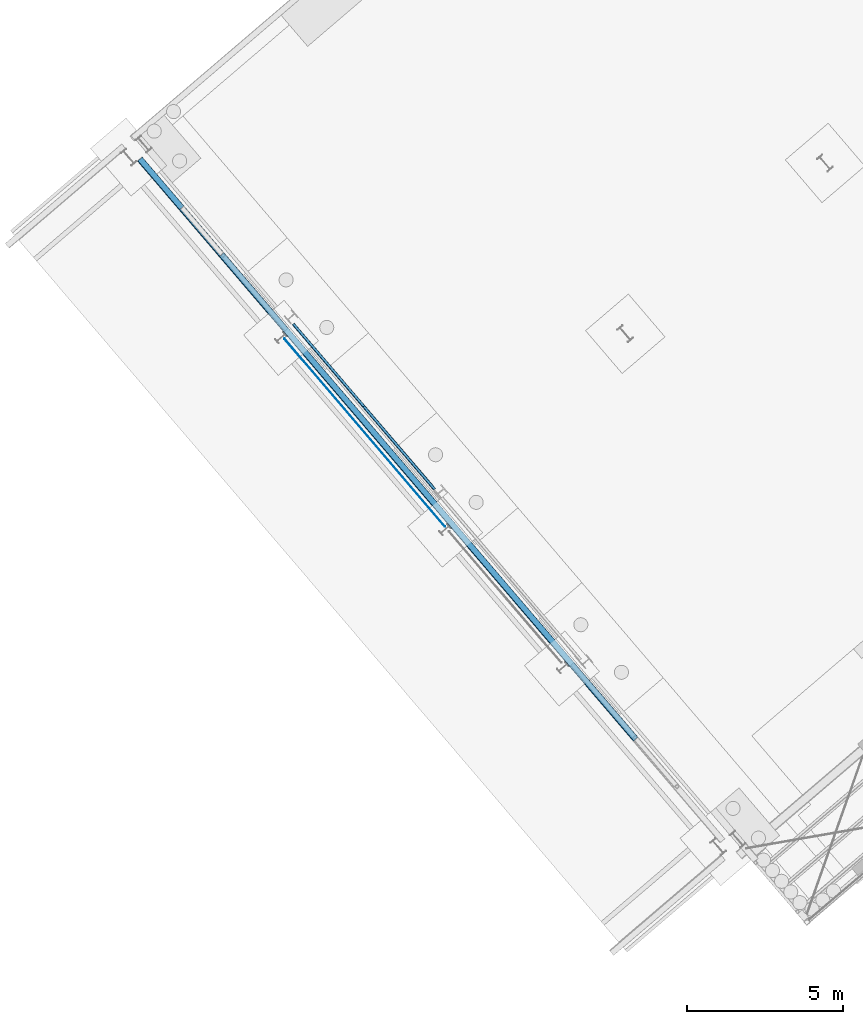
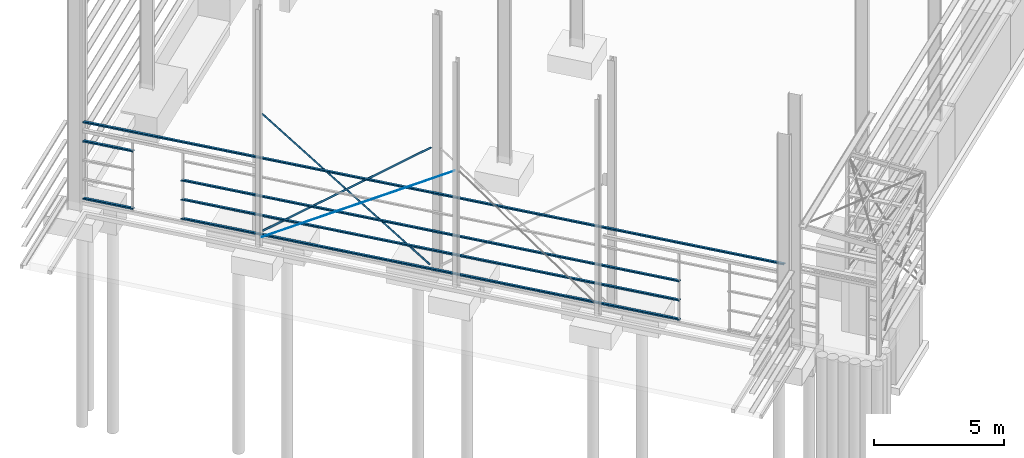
# One storey, part 14 of 41: 9 beams.
"""IFC2X3 building model written with IfcOpenShell, lengths in millimetres."""

from ifc_helpers import new_model, entity, si_unit, converted_unit, derived_unit, direction, frame, frame_2d, origin, place, context, subcontext, project, spatial, polyline, circle_curve, parameter, trimmed, segment, composite_curve, circle, outline, extrude, material, type_object, element, save


model = new_model("IFC2X3")

# Units and contexts
model_context = context("Model", 3, precision=0.01, world=origin(), true_north=direction((6.123031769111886e-17, 1.0)))
body_context = subcontext(model_context, "Body", "Model", "MODEL_VIEW")
ifc_project = project(units=[si_unit("LENGTHUNIT", "METRE", prefix="MILLI"), si_unit("AREAUNIT", "SQUARE_METRE"), si_unit("VOLUMEUNIT", "CUBIC_METRE"), converted_unit("PLANEANGLEUNIT", "DEGREE", entity("IfcRatioMeasure", 0.017453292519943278), si_unit("PLANEANGLEUNIT", "RADIAN"), dimensions=[0, 0, 0, 0, 0, 0, 0]), si_unit("MASSUNIT", "GRAM", prefix="KILO"), derived_unit("MASSDENSITYUNIT", [(si_unit("MASSUNIT", "GRAM", prefix="KILO"), 1), (si_unit("LENGTHUNIT", "METRE"), -3)]), derived_unit("MOMENTOFINERTIAUNIT", [(si_unit("LENGTHUNIT", "METRE"), 4)]), si_unit("TIMEUNIT", "SECOND"), si_unit("FREQUENCYUNIT", "HERTZ"), si_unit("THERMODYNAMICTEMPERATUREUNIT", "DEGREE_CELSIUS"), derived_unit("THERMALTRANSMITTANCEUNIT", [(si_unit("MASSUNIT", "GRAM", prefix="KILO"), 1), (si_unit("THERMODYNAMICTEMPERATUREUNIT", "KELVIN"), -1), (si_unit("TIMEUNIT", "SECOND"), -3)]), derived_unit("VOLUMETRICFLOWRATEUNIT", [(si_unit("LENGTHUNIT", "METRE"), 3), (si_unit("TIMEUNIT", "SECOND"), -1)]), derived_unit("MASSFLOWRATEUNIT", [(si_unit("MASSUNIT", "GRAM", prefix="KILO"), 1), (si_unit("TIMEUNIT", "SECOND"), -1)]), derived_unit("ROTATIONALFREQUENCYUNIT", [(si_unit("TIMEUNIT", "SECOND"), -1)]), si_unit("ELECTRICCURRENTUNIT", "AMPERE"), si_unit("ELECTRICVOLTAGEUNIT", "VOLT"), si_unit("POWERUNIT", "WATT"), si_unit("FORCEUNIT", "NEWTON", prefix="KILO"), si_unit("ILLUMINANCEUNIT", "LUX"), si_unit("LUMINOUSFLUXUNIT", "LUMEN"), si_unit("LUMINOUSINTENSITYUNIT", "CANDELA"), derived_unit("USERDEFINED", [(si_unit("MASSUNIT", "GRAM", prefix="KILO"), -1), (si_unit("LENGTHUNIT", "METRE"), -2), (si_unit("TIMEUNIT", "SECOND"), 3), (si_unit("LUMINOUSFLUXUNIT", "LUMEN"), 1)]), derived_unit("SOUNDPOWERUNIT", [(si_unit("MASSUNIT", "GRAM", prefix="KILO"), 1), (si_unit("LENGTHUNIT", "METRE"), 2), (si_unit("TIMEUNIT", "SECOND"), -3)]), derived_unit("LINEARVELOCITYUNIT", [(si_unit("LENGTHUNIT", "METRE"), 1), (si_unit("TIMEUNIT", "SECOND"), -1)]), si_unit("PRESSUREUNIT", "PASCAL"), derived_unit("USERDEFINED", [(si_unit("LENGTHUNIT", "METRE"), -2), (si_unit("MASSUNIT", "GRAM", prefix="KILO"), 1), (si_unit("TIMEUNIT", "SECOND"), -2)]), derived_unit("LINEARFORCEUNIT", [(si_unit("MASSUNIT", "GRAM", prefix="KILO"), 1), (si_unit("LENGTHUNIT", "METRE"), 1), (si_unit("TIMEUNIT", "SECOND"), -2), (si_unit("LENGTHUNIT", "METRE"), -1)]), derived_unit("PLANARFORCEUNIT", [(si_unit("MASSUNIT", "GRAM", prefix="KILO"), 1), (si_unit("LENGTHUNIT", "METRE"), 1), (si_unit("TIMEUNIT", "SECOND"), -2), (si_unit("LENGTHUNIT", "METRE"), -2)])], contexts=[model_context])

# Site, building, storey
site_placement = place(None, frame((962.4174930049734, -6014.433753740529, 0.0), z_axis=(0.0, 0.0, 1.0), x_axis=(0.7601792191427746, 0.649713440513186, 0.0)))
site = spatial("IfcSite", under=ifc_project, at=site_placement, Name="Default", CompositionType="ELEMENT")
building_placement = place(site_placement, origin())
building = spatial("IfcBuilding", under=site, at=building_placement, CompositionType="ELEMENT")
storey_placement = place(building_placement, origin())
storey = spatial("IfcBuildingStorey", under=building, at=storey_placement, Name="Datum", CompositionType="ELEMENT", Elevation=0.0)

# Beams
ifc_material = material(Name="Metal - Steel - 300 MPa")
beam_type_1 = type_object("IfcBeamType", Name="ADSK_AU_EA-Equal Angles (AS 3679_1):90x90x10EA", PredefinedType="NOTDEFINED")
beam_1_placement = place(storey_placement, frame((154451.93099063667, -4139.362534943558, 5623.784762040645), z_axis=(0.0006233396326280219, -0.6256094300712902, 0.7801361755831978), x_axis=(0.0007773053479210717, -0.7801357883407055, -0.6256097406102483)))
element("IfcBeam", 1, at=beam_1_placement, inside=storey, type_object=beam_type_1, material=ifc_material, Name="ADSK_AU_EA-Equal Angles (AS 3679_1):90x90x10EA", ObjectType="ADSK_AU_EA-Equal Angles (AS 3679_1):90x90x10EA", context=body_context, shape_type="SweptSolid", body=[
    extrude(outline(composite_curve([segment(polyline([(-55.77777777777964, -34.222222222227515), (34.22222222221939, -34.22222222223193)]), True, "CONTINUOUS"), segment(polyline([(34.22222222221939, -34.22222222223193), (34.22222222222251, 55.77777777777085)]), True, "CONTINUOUS"), segment(polyline([(34.22222222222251, 55.77777777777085), (29.22222222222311, 55.777777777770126)]), True, "CONTINUOUS"), segment(trimmed(circle_curve(frame_2d((29.22222222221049, 50.77777777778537), x_axis=(0.0, 1.0)), 4.999999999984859), [parameter(0.0)], [parameter(90.00000000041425)], True, "PARAMETER"), True, "CONTINUOUS"), segment(polyline([(24.222222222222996, 50.777777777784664), (24.222222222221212, -16.222222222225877)]), True, "CONTINUOUS"), segment(trimmed(circle_curve(frame_2d((16.222222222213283, -16.222222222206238), x_axis=(1.0, 0.0)), 8.0000000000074), [parameter(270.000000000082)], [parameter(0.0)], True, "PARAMETER"), False, "CONTINUOUS"), segment(polyline([(16.22222222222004, -24.22222222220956), (-50.77777777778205, -24.22222222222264)]), True, "CONTINUOUS"), segment(trimmed(circle_curve(frame_2d((-50.777777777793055, -29.222222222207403), x_axis=(0.0, 1.0)), 4.999999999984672), [parameter(0.0)], [parameter(90.00000000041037)], True, "PARAMETER"), True, "CONTINUOUS"), segment(polyline([(-55.77777777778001, -29.222222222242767), (-55.77777777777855, -34.222222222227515)]), True, "CONTINUOUS")], self_intersect=False)), frame((0.0, 8.522222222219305, -55.777777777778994), z_axis=(1.0, 0.0, 0.0), x_axis=(0.0, 0.0, -1.0)), (0.0, 0.0, 1.0), 8800.0),
])
beam_2_placement = place(storey_placement, frame((154451.66020471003, -10988.71752360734, 5648.177946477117), z_axis=(0.0, 0.6262631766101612, 0.7796117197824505), x_axis=(0.0, 0.7796117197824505, -0.6262631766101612)))
element("IfcBeam", 2, at=beam_2_placement, inside=storey, type_object=beam_type_1, material=ifc_material, Name="ADSK_AU_EA-Equal Angles (AS 3679_1):90x90x10EA", ObjectType="ADSK_AU_EA-Equal Angles (AS 3679_1):90x90x10EA", context=body_context, shape_type="SweptSolid", body=[
    extrude(outline(composite_curve([segment(polyline([(29.222222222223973, -55.777777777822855), (34.22222222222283, -55.77777777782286)]), True, "CONTINUOUS"), segment(polyline([(34.22222222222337, -55.777777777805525), (34.22222222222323, 34.22222222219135)]), True, "CONTINUOUS"), segment(polyline([(34.22222222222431, 34.22222222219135), (-55.77777777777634, 34.22222222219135)]), True, "CONTINUOUS"), segment(polyline([(-55.77777777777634, 34.22222222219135), (-55.777777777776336, 29.222222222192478)]), True, "CONTINUOUS"), segment(trimmed(circle_curve(frame_2d((-50.77777777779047, 29.22222222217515), x_axis=(-1.0, 0.0)), 4.9999999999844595), [parameter(0.0)], [parameter(90.00000000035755)], True, "PARAMETER"), True, "CONTINUOUS"), segment(polyline([(-50.77777777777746, 24.22222222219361), (16.222222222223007, 24.22222222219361)]), True, "CONTINUOUS"), segment(trimmed(circle_curve(frame_2d((16.2222222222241, 16.22222222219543), x_axis=(0.0, 1.0)), 7.999999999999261), [parameter(269.99999999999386)], [parameter(0.0)], True, "PARAMETER"), False, "CONTINUOUS"), segment(polyline([(24.222222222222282, 16.222222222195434), (24.22222222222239, -50.77777777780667)]), True, "CONTINUOUS"), segment(trimmed(circle_curve(frame_2d((29.222222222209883, -50.77777777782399), x_axis=(-1.0, 0.0)), 4.999999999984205), [parameter(0.0)], [parameter(90.00000000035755)], True, "PARAMETER"), True, "CONTINUOUS")], self_intersect=False)), frame((2.633183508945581, -8.522222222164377, -55.777777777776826), z_axis=(1.0, 0.0, 0.0), x_axis=(0.0, 0.0, -1.0)), (0.0, 0.0, 1.0), 8837.366816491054),
])
beam_type_2 = type_object("IfcBeamType", Name="ADSK_UK_Light Gauge-Zeds-Purlin:Metsec-202Z14", PredefinedType="NOTDEFINED")
beam_3_placement = place(storey_placement, frame((154066.46020470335, -25607.428082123, 3700.0), z_axis=(0.0, 0.0, 1.0), x_axis=(0.0, 1.0, 0.0)))
element("IfcBeam", 3, at=beam_3_placement, inside=storey, type_object=beam_type_2, material=ifc_material, Name="ADSK_UK_Light Gauge-Zeds-Purlin:Metsec-202Z14", ObjectType="ADSK_UK_Light Gauge-Zeds-Purlin:Metsec-202Z14", context=body_context, shape_type="SweptSolid", body=[
    extrude(outline(composite_curve([segment(polyline([(3.6000000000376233, -101.20000000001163), (58.0, -101.20000000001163)]), True, "CONTINUOUS"), segment(trimmed(circle_curve(frame_2d((58.0, -98.40000000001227), x_axis=(0.0, -1.0)), 2.800000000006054), [parameter(0.0)], [parameter(89.99999999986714)], True, "PARAMETER"), True, "CONTINUOUS"), segment(polyline([(60.80000000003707, -98.40000000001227), (60.79999999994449, -80.2000000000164)]), True, "CONTINUOUS"), segment(polyline([(60.80000000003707, -80.2000000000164), (59.39999999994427, -80.2000000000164)]), True, "CONTINUOUS"), segment(polyline([(59.400000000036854, -80.1999999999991), (59.39999999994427, -98.40000000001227)]), True, "CONTINUOUS"), segment(trimmed(circle_curve(frame_2d((58.0, -98.40000000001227), x_axis=(1.0, 0.0)), 1.3999999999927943), [parameter(269.9999999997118)], [parameter(0.0)], True, "PARAMETER"), False, "CONTINUOUS"), segment(polyline([(58.0, -99.80000000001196), (3.599999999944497, -99.80000000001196)]), True, "CONTINUOUS"), segment(trimmed(circle_curve(frame_2d((3.599999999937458, -98.40000000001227), x_axis=(0.0, -1.0)), 1.3999999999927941), [parameter(269.9999999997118)], [parameter(0.0)], True, "PARAMETER"), False, "CONTINUOUS"), segment(polyline([(2.200000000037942, -98.39999999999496), (2.199999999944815, 98.0)]), True, "CONTINUOUS"), segment(trimmed(circle_curve(frame_2d((-0.6000000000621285, 98.0), x_axis=(1.0, 0.0)), 2.800000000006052), [parameter(0.0)], [parameter(89.99999999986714)], True, "PARAMETER"), True, "CONTINUOUS"), segment(polyline([(-0.599999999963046, 100.79999999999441), (-60.0, 100.79999999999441)]), True, "CONTINUOUS"), segment(trimmed(circle_curve(frame_2d((-60.0, 98.0), x_axis=(0.0, 1.0)), 2.8000000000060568), [parameter(0.0)], [parameter(89.99999999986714)], True, "PARAMETER"), True, "CONTINUOUS"), segment(polyline([(-62.79999999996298, 98.0), (-62.80000000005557, 81.79999999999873)]), True, "CONTINUOUS"), segment(polyline([(-62.79999999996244, 81.79999999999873), (-61.40000000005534, 81.79999999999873)]), True, "CONTINUOUS"), segment(polyline([(-61.39999999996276, 81.79999999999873), (-61.40000000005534, 98.0)]), True, "CONTINUOUS"), segment(trimmed(circle_curve(frame_2d((-60.0, 98.0), x_axis=(-1.0, 0.0)), 1.399999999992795), [parameter(269.9999999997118)], [parameter(0.0)], True, "PARAMETER"), False, "CONTINUOUS"), segment(polyline([(-60.0, 99.39999999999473), (-0.6000000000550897, 99.39999999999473)]), True, "CONTINUOUS"), segment(trimmed(circle_curve(frame_2d((-0.6000000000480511, 98.0), x_axis=(0.0, 1.0)), 1.3999999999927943), [parameter(269.9999999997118)], [parameter(0.0)], True, "PARAMETER"), False, "CONTINUOUS"), segment(polyline([(0.8000000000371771, 98.0), (0.7999999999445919, -98.40000000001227)]), True, "CONTINUOUS"), segment(trimmed(circle_curve(frame_2d((3.599999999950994, -98.40000000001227), x_axis=(-1.0, 0.0)), 2.800000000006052), [parameter(0.0)], [parameter(89.99999999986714)], True, "PARAMETER"), True, "CONTINUOUS")], self_intersect=False)), frame((43.0, -100.79999999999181, 0.6999999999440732), z_axis=(1.0, 0.0, 0.0), x_axis=(0.0, 0.0, -1.0)), (0.0, 0.0, 1.0), 28668.999999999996),
])
beam_4_placement = place(storey_placement, frame((154066.46020470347, 1172.5719178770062, 100.0), z_axis=(0.0, 0.0, 1.0), x_axis=(0.0, 1.0, 0.0)))
element("IfcBeam", 4, at=beam_4_placement, inside=storey, type_object=beam_type_2, material=ifc_material, Name="ADSK_UK_Light Gauge-Zeds-Purlin:Metsec-202Z14", ObjectType="ADSK_UK_Light Gauge-Zeds-Purlin:Metsec-202Z14", context=body_context, shape_type="SweptSolid", body=[
    extrude(outline(composite_curve([segment(polyline([(3.6000000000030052, -101.19999999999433), (58.0, -101.19999999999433)]), True, "CONTINUOUS"), segment(trimmed(circle_curve(frame_2d((58.0, -98.39999999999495), x_axis=(0.0, -1.0)), 2.8000000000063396), [parameter(0.0)], [parameter(89.99999999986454)], True, "PARAMETER"), True, "CONTINUOUS"), segment(polyline([(60.800000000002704, -98.40000000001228), (60.799999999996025, -80.19999999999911)]), True, "CONTINUOUS"), segment(polyline([(60.80000000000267, -80.19999999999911), (59.39999999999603, -80.19999999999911)]), True, "CONTINUOUS"), segment(polyline([(59.40000000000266, -80.19999999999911), (59.399999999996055, -98.39999999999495)]), True, "CONTINUOUS"), segment(trimmed(circle_curve(frame_2d((58.0, -98.39999999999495), x_axis=(1.0, 0.0)), 1.3999999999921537), [parameter(269.9999999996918)], [parameter(0.0)], True, "PARAMETER"), False, "CONTINUOUS"), segment(polyline([(58.0, -99.79999999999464), (3.5999999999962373, -99.79999999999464)]), True, "CONTINUOUS"), segment(trimmed(circle_curve(frame_2d((3.5999999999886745, -98.39999999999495), x_axis=(0.0, -1.0)), 1.3999999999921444), [parameter(269.99999999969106)], [parameter(0.0)], True, "PARAMETER"), False, "CONTINUOUS"), segment(polyline([(2.200000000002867, -98.39999999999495), (2.199999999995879, 98.0)]), True, "CONTINUOUS"), segment(trimmed(circle_curve(frame_2d((-0.6000000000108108, 98.0), x_axis=(1.0, 0.0)), 2.8000000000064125), [parameter(0.0)], [parameter(89.99999999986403)], True, "PARAMETER"), True, "CONTINUOUS"), segment(polyline([(-0.5999999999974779, 100.80000000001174), (-60.0, 100.80000000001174)]), True, "CONTINUOUS"), segment(trimmed(circle_curve(frame_2d((-60.0, 98.0), x_axis=(0.0, 1.0)), 2.8000000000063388), [parameter(0.0)], [parameter(89.99999999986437)], True, "PARAMETER"), True, "CONTINUOUS"), segment(polyline([(-62.799999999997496, 98.0), (-62.8000000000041, 81.80000000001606)]), True, "CONTINUOUS"), segment(polyline([(-62.79999999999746, 81.80000000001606), (-61.40000000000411, 81.80000000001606)]), True, "CONTINUOUS"), segment(polyline([(-61.399999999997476, 81.79999999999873), (-61.40000000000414, 98.0)]), True, "CONTINUOUS"), segment(trimmed(circle_curve(frame_2d((-60.0, 98.0), x_axis=(-1.0, 0.0)), 1.3999999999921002), [parameter(269.99999999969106)], [parameter(0.0)], True, "PARAMETER"), False, "CONTINUOUS"), segment(polyline([(-60.0, 99.40000000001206), (-0.600000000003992, 99.40000000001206)]), True, "CONTINUOUS"), segment(trimmed(circle_curve(frame_2d((-0.5999999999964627, 98.0), x_axis=(0.0, 1.0)), 1.399999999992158), [parameter(269.9999999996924)], [parameter(0.0)], True, "PARAMETER"), False, "CONTINUOUS"), segment(polyline([(0.8000000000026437, 98.0), (0.7999999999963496, -98.39999999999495)]), True, "CONTINUOUS"), segment(trimmed(circle_curve(frame_2d((3.6000000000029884, -98.39999999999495), x_axis=(-1.0, 0.0)), 2.800000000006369), [parameter(0.0)], [parameter(89.99999999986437)], True, "PARAMETER"), True, "CONTINUOUS")], self_intersect=False)), frame((-121.80547755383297, -100.80000000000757, 0.6999999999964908), z_axis=(1.0, 0.0, 0.0), x_axis=(0.0, 0.0, -1.0)), (0.0, 0.0, 1.0), 2053.8054775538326),
])
beam_5_placement = place(storey_placement, frame((154066.46020470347, 1172.5719178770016, 2800.0), z_axis=(0.0, 0.0, 1.0), x_axis=(0.0, 1.0, 0.0)))
element("IfcBeam", 5, at=beam_5_placement, inside=storey, type_object=beam_type_2, material=ifc_material, Name="ADSK_UK_Light Gauge-Zeds-Purlin:Metsec-202Z14", ObjectType="ADSK_UK_Light Gauge-Zeds-Purlin:Metsec-202Z14", context=body_context, shape_type="SweptSolid", body=[
    extrude(outline(composite_curve([segment(polyline([(3.600000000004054, -101.19999999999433), (58.0, -101.19999999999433)]), True, "CONTINUOUS"), segment(trimmed(circle_curve(frame_2d((58.0, -98.39999999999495), x_axis=(0.0, -1.0)), 2.800000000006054), [parameter(0.0)], [parameter(89.99999999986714)], True, "PARAMETER"), True, "CONTINUOUS"), segment(polyline([(60.8000000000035, -98.40000000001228), (60.799999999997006, -80.19999999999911)]), True, "CONTINUOUS"), segment(polyline([(60.8000000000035, -80.19999999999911), (59.39999999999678, -80.19999999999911)]), True, "CONTINUOUS"), segment(polyline([(59.40000000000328, -80.19999999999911), (59.39999999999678, -98.39999999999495)]), True, "CONTINUOUS"), segment(trimmed(circle_curve(frame_2d((58.0, -98.39999999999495), x_axis=(1.0, 0.0)), 1.3999999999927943), [parameter(269.9999999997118)], [parameter(0.0)], True, "PARAMETER"), False, "CONTINUOUS"), segment(polyline([(58.0, -99.79999999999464), (3.599999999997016, -99.79999999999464)]), True, "CONTINUOUS"), segment(trimmed(circle_curve(frame_2d((3.599999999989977, -98.39999999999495), x_axis=(0.0, -1.0)), 1.3999999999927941), [parameter(269.9999999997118)], [parameter(0.0)], True, "PARAMETER"), False, "CONTINUOUS"), segment(polyline([(2.2000000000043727, -98.39999999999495), (2.1999999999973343, 98.0)]), True, "CONTINUOUS"), segment(trimmed(circle_curve(frame_2d((-0.6000000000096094, 98.0), x_axis=(1.0, 0.0)), 2.800000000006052), [parameter(0.0)], [parameter(89.99999999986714)], True, "PARAMETER"), True, "CONTINUOUS"), segment(polyline([(-0.5999999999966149, 100.80000000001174), (-60.0, 100.80000000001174)]), True, "CONTINUOUS"), segment(trimmed(circle_curve(frame_2d((-60.0, 98.0), x_axis=(0.0, 1.0)), 2.8000000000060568), [parameter(0.0)], [parameter(89.99999999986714)], True, "PARAMETER"), True, "CONTINUOUS"), segment(polyline([(-62.79999999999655, 98.0), (-62.80000000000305, 81.80000000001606)]), True, "CONTINUOUS"), segment(polyline([(-62.79999999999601, 81.80000000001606), (-61.40000000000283, 81.80000000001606)]), True, "CONTINUOUS"), segment(polyline([(-61.39999999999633, 81.79999999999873), (-61.40000000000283, 98.0)]), True, "CONTINUOUS"), segment(trimmed(circle_curve(frame_2d((-60.0, 98.0), x_axis=(-1.0, 0.0)), 1.399999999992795), [parameter(269.9999999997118)], [parameter(0.0)], True, "PARAMETER"), False, "CONTINUOUS"), segment(polyline([(-60.0, 99.40000000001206), (-0.6000000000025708, 99.40000000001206)]), True, "CONTINUOUS"), segment(trimmed(circle_curve(frame_2d((-0.5999999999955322, 98.0), x_axis=(0.0, 1.0)), 1.3999999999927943), [parameter(269.9999999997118)], [parameter(0.0)], True, "PARAMETER"), False, "CONTINUOUS"), segment(polyline([(0.8000000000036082, 98.0), (0.7999999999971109, -98.39999999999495)]), True, "CONTINUOUS"), segment(trimmed(circle_curve(frame_2d((3.600000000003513, -98.39999999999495), x_axis=(-1.0, 0.0)), 2.800000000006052), [parameter(0.0)], [parameter(89.99999999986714)], True, "PARAMETER"), True, "CONTINUOUS")], self_intersect=False)), frame((-121.80547755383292, -100.80000000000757, 0.6999999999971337), z_axis=(1.0, 0.0, 0.0), x_axis=(0.0, 0.0, -1.0)), (0.0, 0.0, 1.0), 2053.8054775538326),
])
beam_6_placement = place(storey_placement, frame((154066.46020470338, -21182.428082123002, 1000.0), z_axis=(0.0, 0.0, 1.0), x_axis=(0.0, 1.0, 0.0)))
element("IfcBeam", 6, at=beam_6_placement, inside=storey, type_object=beam_type_2, material=ifc_material, Name="ADSK_UK_Light Gauge-Zeds-Purlin:Metsec-202Z14", ObjectType="ADSK_UK_Light Gauge-Zeds-Purlin:Metsec-202Z14", context=body_context, shape_type="SweptSolid", body=[
    extrude(outline(composite_curve([segment(polyline([(3.60000000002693, -101.19999999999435), (58.0, -101.19999999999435)]), True, "CONTINUOUS"), segment(trimmed(circle_curve(frame_2d((58.0, -98.39999999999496), x_axis=(0.0, -1.0)), 2.800000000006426), [parameter(0.0)], [parameter(89.99999999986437)], True, "PARAMETER"), True, "CONTINUOUS"), segment(polyline([(60.800000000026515, -98.39999999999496), (60.7999999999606, -80.19999999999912)]), True, "CONTINUOUS"), segment(polyline([(60.800000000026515, -80.19999999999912), (59.39999999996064, -80.19999999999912)]), True, "CONTINUOUS"), segment(polyline([(59.400000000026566, -80.19999999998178), (59.39999999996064, -98.39999999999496)]), True, "CONTINUOUS"), segment(trimmed(circle_curve(frame_2d((58.0, -98.39999999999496), x_axis=(1.0, 0.0)), 1.399999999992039), [parameter(269.9999999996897)], [parameter(0.0)], True, "PARAMETER"), False, "CONTINUOUS"), segment(polyline([(58.0, -99.79999999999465), (3.5999999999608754, -99.79999999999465)]), True, "CONTINUOUS"), segment(trimmed(circle_curve(frame_2d((3.59999999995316, -98.39999999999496), x_axis=(0.0, -1.0)), 1.399999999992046), [parameter(269.9999999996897)], [parameter(0.0)], True, "PARAMETER"), False, "CONTINUOUS"), segment(polyline([(2.2000000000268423, -98.39999999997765), (2.1999999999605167, 98.0)]), True, "CONTINUOUS"), segment(trimmed(circle_curve(frame_2d((-0.6000000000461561, 98.0), x_axis=(1.0, 0.0)), 2.8000000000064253), [parameter(0.0)], [parameter(89.99999999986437)], True, "PARAMETER"), True, "CONTINUOUS"), segment(polyline([(-0.5999999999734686, 100.80000000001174), (-60.0, 100.80000000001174)]), True, "CONTINUOUS"), segment(trimmed(circle_curve(frame_2d((-60.0, 98.0), x_axis=(0.0, 1.0)), 2.8000000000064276), [parameter(0.0)], [parameter(89.99999999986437)], True, "PARAMETER"), True, "CONTINUOUS"), segment(polyline([(-62.799999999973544, 98.0), (-62.80000000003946, 81.80000000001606)]), True, "CONTINUOUS"), segment(polyline([(-62.799999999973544, 81.80000000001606), (-61.400000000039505, 81.80000000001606)]), True, "CONTINUOUS"), segment(polyline([(-61.39999999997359, 81.80000000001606), (-61.400000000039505, 98.0)]), True, "CONTINUOUS"), segment(trimmed(circle_curve(frame_2d((-60.0, 98.0), x_axis=(-1.0, 0.0)), 1.3999999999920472), [parameter(269.9999999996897)], [parameter(0.0)], True, "PARAMETER"), False, "CONTINUOUS"), segment(polyline([(-60.0, 99.40000000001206), (-0.6000000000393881, 99.40000000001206)]), True, "CONTINUOUS"), segment(trimmed(circle_curve(frame_2d((-0.6000000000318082, 98.0), x_axis=(0.0, 1.0)), 1.399999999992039), [parameter(269.9999999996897)], [parameter(0.0)], True, "PARAMETER"), False, "CONTINUOUS"), segment(polyline([(0.8000000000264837, 98.0), (0.7999999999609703, -98.39999999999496)]), True, "CONTINUOUS"), segment(trimmed(circle_curve(frame_2d((3.5999999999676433, -98.39999999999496), x_axis=(-1.0, 0.0)), 2.800000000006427), [parameter(0.0)], [parameter(89.99999999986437)], True, "PARAMETER"), True, "CONTINUOUS")], self_intersect=False)), frame((-109.0, -100.80000000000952, 0.6999999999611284), z_axis=(1.0, 0.0, 0.0), x_axis=(0.0, 0.0, -1.0)), (0.0, 0.0, 1.0), 20380.000000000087),
])
beam_7_placement = place(storey_placement, frame((154066.46020470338, -21187.428082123, 1900.0), z_axis=(0.0, 0.0, 1.0), x_axis=(0.0, 1.0, 0.0)))
element("IfcBeam", 7, at=beam_7_placement, inside=storey, type_object=beam_type_2, material=ifc_material, Name="ADSK_UK_Light Gauge-Zeds-Purlin:Metsec-202Z14", ObjectType="ADSK_UK_Light Gauge-Zeds-Purlin:Metsec-202Z14", context=body_context, shape_type="SweptSolid", body=[
    extrude(outline(composite_curve([segment(polyline([(3.600000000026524, -101.19999999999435), (58.0, -101.19999999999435)]), True, "CONTINUOUS"), segment(trimmed(circle_curve(frame_2d((58.0, -98.39999999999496), x_axis=(0.0, -1.0)), 2.8000000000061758), [parameter(0.0)], [parameter(89.99999999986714)], True, "PARAMETER"), True, "CONTINUOUS"), segment(polyline([(60.800000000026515, -98.39999999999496), (60.79999999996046, -80.19999999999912)]), True, "CONTINUOUS"), segment(polyline([(60.800000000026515, -80.19999999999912), (59.39999999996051, -80.19999999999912)]), True, "CONTINUOUS"), segment(polyline([(59.400000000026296, -80.19999999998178), (59.39999999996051, -98.39999999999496)]), True, "CONTINUOUS"), segment(trimmed(circle_curve(frame_2d((58.0, -98.39999999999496), x_axis=(1.0, 0.0)), 1.3999999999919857), [parameter(269.9999999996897)], [parameter(0.0)], True, "PARAMETER"), False, "CONTINUOUS"), segment(polyline([(58.0, -99.79999999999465), (3.599999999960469, -99.79999999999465)]), True, "CONTINUOUS"), segment(trimmed(circle_curve(frame_2d((3.599999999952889, -98.39999999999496), x_axis=(0.0, -1.0)), 1.3999999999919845), [parameter(269.9999999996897)], [parameter(0.0)], True, "PARAMETER"), False, "CONTINUOUS"), segment(polyline([(2.200000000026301, -98.39999999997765), (2.1999999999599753, 98.0)]), True, "CONTINUOUS"), segment(trimmed(circle_curve(frame_2d((-0.6000000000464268, 98.0), x_axis=(1.0, 0.0)), 2.8000000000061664), [parameter(0.0)], [parameter(89.99999999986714)], True, "PARAMETER"), True, "CONTINUOUS"), segment(polyline([(-0.5999999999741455, 100.80000000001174), (-60.0, 100.80000000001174)]), True, "CONTINUOUS"), segment(trimmed(circle_curve(frame_2d((-60.0, 98.0), x_axis=(0.0, 1.0)), 2.800000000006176), [parameter(0.0)], [parameter(89.99999999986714)], True, "PARAMETER"), True, "CONTINUOUS"), segment(polyline([(-62.799999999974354, 98.0), (-62.800000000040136, 81.80000000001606)]), True, "CONTINUOUS"), segment(polyline([(-62.799999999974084, 81.80000000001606), (-61.40000000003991, 81.80000000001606)]), True, "CONTINUOUS"), segment(polyline([(-61.39999999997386, 81.80000000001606), (-61.40000000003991, 98.0)]), True, "CONTINUOUS"), segment(trimmed(circle_curve(frame_2d((-60.0, 98.0), x_axis=(-1.0, 0.0)), 1.3999999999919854), [parameter(269.9999999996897)], [parameter(0.0)], True, "PARAMETER"), False, "CONTINUOUS"), segment(polyline([(-60.0, 99.40000000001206), (-0.6000000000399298, 99.40000000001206)]), True, "CONTINUOUS"), segment(trimmed(circle_curve(frame_2d((-0.6000000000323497, 98.0), x_axis=(0.0, 1.0)), 1.399999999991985), [parameter(269.9999999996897)], [parameter(0.0)], True, "PARAMETER"), False, "CONTINUOUS"), segment(polyline([(0.8000000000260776, 98.0), (0.7999999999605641, -98.39999999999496)]), True, "CONTINUOUS"), segment(trimmed(circle_curve(frame_2d((3.599999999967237, -98.39999999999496), x_axis=(-1.0, 0.0)), 2.8000000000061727), [parameter(0.0)], [parameter(89.99999999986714)], True, "PARAMETER"), True, "CONTINUOUS")], self_intersect=False)), frame((-104.0, -100.80000000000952, 0.6999999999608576), z_axis=(1.0, 0.0, 0.0), x_axis=(0.0, 0.0, -1.0)), (0.0, 0.0, 1.0), 20380.000000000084),
])
beam_8_placement = place(storey_placement, frame((154066.46020470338, -21187.428082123, 100.0), z_axis=(0.0, 0.0, 1.0), x_axis=(0.0, 1.0, 0.0)))
element("IfcBeam", 8, at=beam_8_placement, inside=storey, type_object=beam_type_2, material=ifc_material, Name="ADSK_UK_Light Gauge-Zeds-Purlin:Metsec-202Z14", ObjectType="ADSK_UK_Light Gauge-Zeds-Purlin:Metsec-202Z14", context=body_context, shape_type="SweptSolid", body=[
    extrude(outline(composite_curve([segment(polyline([(3.6000000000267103, -101.19999999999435), (58.0, -101.19999999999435)]), True, "CONTINUOUS"), segment(trimmed(circle_curve(frame_2d((58.0, -98.39999999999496), x_axis=(0.0, -1.0)), 2.8000000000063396), [parameter(0.0)], [parameter(89.99999999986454)], True, "PARAMETER"), True, "CONTINUOUS"), segment(polyline([(60.800000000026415, -98.39999999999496), (60.79999999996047, -80.19999999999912)]), True, "CONTINUOUS"), segment(polyline([(60.80000000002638, -80.19999999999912), (59.399999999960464, -80.19999999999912)]), True, "CONTINUOUS"), segment(polyline([(59.400000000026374, -80.19999999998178), (59.3999999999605, -98.39999999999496)]), True, "CONTINUOUS"), segment(trimmed(circle_curve(frame_2d((58.0, -98.39999999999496), x_axis=(1.0, 0.0)), 1.3999999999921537), [parameter(269.9999999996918)], [parameter(0.0)], True, "PARAMETER"), False, "CONTINUOUS"), segment(polyline([(58.0, -99.79999999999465), (3.599999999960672, -99.79999999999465)]), True, "CONTINUOUS"), segment(trimmed(circle_curve(frame_2d((3.599999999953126, -98.39999999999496), x_axis=(0.0, -1.0)), 1.3999999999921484), [parameter(269.9999999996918)], [parameter(0.0)], True, "PARAMETER"), False, "CONTINUOUS"), segment(polyline([(2.200000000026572, -98.39999999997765), (2.1999999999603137, 98.0)]), True, "CONTINUOUS"), segment(trimmed(circle_curve(frame_2d((-0.6000000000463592, 98.0), x_axis=(1.0, 0.0)), 2.8000000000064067), [parameter(0.0)], [parameter(89.99999999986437)], True, "PARAMETER"), True, "CONTINUOUS"), segment(polyline([(-0.5999999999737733, 100.80000000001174), (-60.0, 100.80000000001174)]), True, "CONTINUOUS"), segment(trimmed(circle_curve(frame_2d((-60.0, 98.0), x_axis=(0.0, 1.0)), 2.8000000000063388), [parameter(0.0)], [parameter(89.99999999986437)], True, "PARAMETER"), True, "CONTINUOUS"), segment(polyline([(-62.79999999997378, 98.0), (-62.80000000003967, 81.80000000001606)]), True, "CONTINUOUS"), segment(polyline([(-62.79999999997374, 81.80000000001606), (-61.40000000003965, 81.80000000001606)]), True, "CONTINUOUS"), segment(polyline([(-61.39999999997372, 81.80000000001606), (-61.400000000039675, 98.0)]), True, "CONTINUOUS"), segment(trimmed(circle_curve(frame_2d((-60.0, 98.0), x_axis=(-1.0, 0.0)), 1.399999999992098), [parameter(269.99999999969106)], [parameter(0.0)], True, "PARAMETER"), False, "CONTINUOUS"), segment(polyline([(-60.0, 99.40000000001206), (-0.6000000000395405, 99.40000000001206)]), True, "CONTINUOUS"), segment(trimmed(circle_curve(frame_2d((-0.600000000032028, 98.0), x_axis=(0.0, 1.0)), 1.399999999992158), [parameter(269.9999999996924)], [parameter(0.0)], True, "PARAMETER"), False, "CONTINUOUS"), segment(polyline([(0.8000000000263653, 98.0), (0.7999999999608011, -98.39999999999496)]), True, "CONTINUOUS"), segment(trimmed(circle_curve(frame_2d((3.599999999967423, -98.39999999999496), x_axis=(-1.0, 0.0)), 2.800000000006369), [parameter(0.0)], [parameter(89.99999999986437)], True, "PARAMETER"), True, "CONTINUOUS")], self_intersect=False)), frame((-104.0, -100.80000000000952, 0.6999999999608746), z_axis=(1.0, 0.0, 0.0), x_axis=(0.0, 0.0, -1.0)), (0.0, 0.0, 1.0), 20380.000000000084),
])
beam_type_3 = type_object("IfcBeamType", Name="ADSK_AU_Round Bars (AS 3679_1):24ROD (EXISTING)", PredefinedType="NOTDEFINED")
beam_9_placement = place(storey_placement, frame((153941.89267041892, -4381.363780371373, 207.2228364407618), z_axis=(0.0, 0.5325329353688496, 0.8464092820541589), x_axis=(0.0, -0.8464092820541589, 0.5325329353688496)))
element("IfcBeam", 9, at=beam_9_placement, inside=storey, type_object=beam_type_3, Name="ADSK_AU_Round Bars (AS 3679_1):24ROD (EXISTING)", ObjectType="ADSK_AU_Round Bars (AS 3679_1):24ROD (EXISTING)", context=body_context, shape_type="SweptSolid", body=[
    extrude(circle(Radius=12.000000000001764, at=frame_2d((1.4321074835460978e-14, 6.097170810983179e-31), x_axis=(1.0, 0.0))), frame((-136.89645948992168, 12.0, 0.0), z_axis=(1.0, 0.0, 0.0), x_axis=(0.0, 0.0, -1.0)), (0.0, 0.0, 1.0), 9323.90845568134),
])

save(model, "model.ifc")
